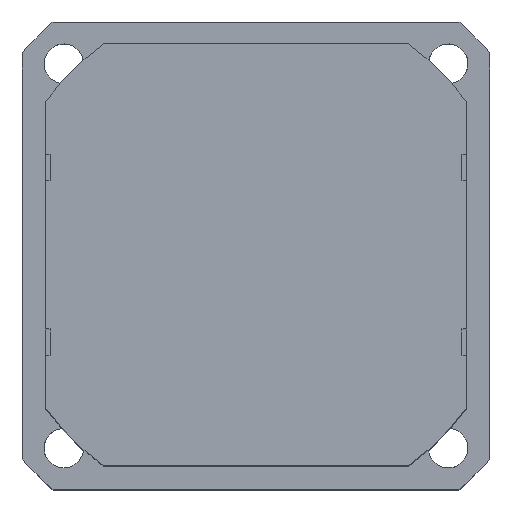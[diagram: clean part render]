
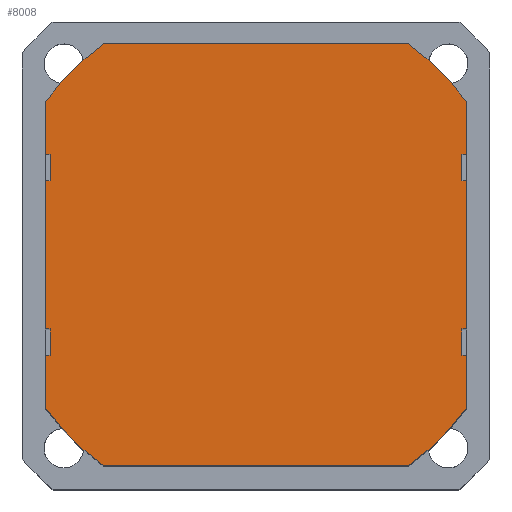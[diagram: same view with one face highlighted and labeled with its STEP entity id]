
A CAD part, top view. The second image highlights one B-rep face of the part: STEP entity #8008.
In plain terms, the highlighted planar face has unit normal (0, 0, 1).
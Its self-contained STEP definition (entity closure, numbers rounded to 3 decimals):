
#2103=LINE('',#11396,#9480);
#2104=LINE('',#11401,#9481);
#2105=LINE('',#11405,#9482);
#2106=LINE('',#11407,#9483);
#2107=LINE('',#11409,#9484);
#2108=LINE('',#11411,#9485);
#2109=LINE('',#11413,#9486);
#2110=LINE('',#11415,#9487);
#2111=LINE('',#11417,#9488);
#2112=LINE('',#11419,#9489);
#2113=LINE('',#11421,#9490);
#2114=LINE('',#11425,#9491);
#2115=LINE('',#11429,#9492);
#2116=LINE('',#11431,#9493);
#2117=LINE('',#11433,#9494);
#2118=LINE('',#11435,#9495);
#2119=LINE('',#11437,#9496);
#2120=LINE('',#11439,#9497);
#2121=LINE('',#11441,#9498);
#2122=LINE('',#11443,#9499);
#2772=CIRCLE('',#8630,79.);
#2773=CIRCLE('',#8631,79.);
#2774=CIRCLE('',#8632,79.);
#2775=CIRCLE('',#8633,79.);
#3178=VERTEX_POINT('',#11397);
#3179=VERTEX_POINT('',#11398);
#3180=VERTEX_POINT('',#11400);
#3181=VERTEX_POINT('',#11402);
#3182=VERTEX_POINT('',#11404);
#3183=VERTEX_POINT('',#11406);
#3184=VERTEX_POINT('',#11408);
#3185=VERTEX_POINT('',#11410);
#3186=VERTEX_POINT('',#11412);
#3187=VERTEX_POINT('',#11414);
#3188=VERTEX_POINT('',#11416);
#3189=VERTEX_POINT('',#11418);
#3190=VERTEX_POINT('',#11420);
#3191=VERTEX_POINT('',#11422);
#3192=VERTEX_POINT('',#11424);
#3193=VERTEX_POINT('',#11426);
#3194=VERTEX_POINT('',#11428);
#3195=VERTEX_POINT('',#11430);
#3196=VERTEX_POINT('',#11432);
#3197=VERTEX_POINT('',#11434);
#3198=VERTEX_POINT('',#11436);
#3199=VERTEX_POINT('',#11438);
#3200=VERTEX_POINT('',#11440);
#3201=VERTEX_POINT('',#11442);
#4018=EDGE_CURVE('',#3178,#3179,#2103,.T.);
#4019=EDGE_CURVE('',#3180,#3178,#2772,.T.);
#4020=EDGE_CURVE('',#3181,#3180,#2104,.T.);
#4021=EDGE_CURVE('',#3182,#3181,#2773,.T.);
#4022=EDGE_CURVE('',#3183,#3182,#2105,.T.);
#4023=EDGE_CURVE('',#3184,#3183,#2106,.T.);
#4024=EDGE_CURVE('',#3185,#3184,#2107,.T.);
#4025=EDGE_CURVE('',#3186,#3185,#2108,.T.);
#4026=EDGE_CURVE('',#3187,#3186,#2109,.T.);
#4027=EDGE_CURVE('',#3188,#3187,#2110,.T.);
#4028=EDGE_CURVE('',#3189,#3188,#2111,.T.);
#4029=EDGE_CURVE('',#3190,#3189,#2112,.T.);
#4030=EDGE_CURVE('',#3191,#3190,#2113,.T.);
#4031=EDGE_CURVE('',#3192,#3191,#2774,.T.);
#4032=EDGE_CURVE('',#3193,#3192,#2114,.T.);
#4033=EDGE_CURVE('',#3194,#3193,#2775,.T.);
#4034=EDGE_CURVE('',#3195,#3194,#2115,.T.);
#4035=EDGE_CURVE('',#3196,#3195,#2116,.T.);
#4036=EDGE_CURVE('',#3197,#3196,#2117,.T.);
#4037=EDGE_CURVE('',#3198,#3197,#2118,.T.);
#4038=EDGE_CURVE('',#3199,#3198,#2119,.T.);
#4039=EDGE_CURVE('',#3200,#3199,#2120,.T.);
#4040=EDGE_CURVE('',#3201,#3200,#2121,.T.);
#4041=EDGE_CURVE('',#3179,#3201,#2122,.T.);
#5250=ORIENTED_EDGE('',*,*,#4018,.F.);
#5251=ORIENTED_EDGE('',*,*,#4019,.F.);
#5252=ORIENTED_EDGE('',*,*,#4020,.F.);
#5253=ORIENTED_EDGE('',*,*,#4021,.F.);
#5254=ORIENTED_EDGE('',*,*,#4022,.F.);
#5255=ORIENTED_EDGE('',*,*,#4023,.F.);
#5256=ORIENTED_EDGE('',*,*,#4024,.F.);
#5257=ORIENTED_EDGE('',*,*,#4025,.F.);
#5258=ORIENTED_EDGE('',*,*,#4026,.F.);
#5259=ORIENTED_EDGE('',*,*,#4027,.F.);
#5260=ORIENTED_EDGE('',*,*,#4028,.F.);
#5261=ORIENTED_EDGE('',*,*,#4029,.F.);
#5262=ORIENTED_EDGE('',*,*,#4030,.F.);
#5263=ORIENTED_EDGE('',*,*,#4031,.F.);
#5264=ORIENTED_EDGE('',*,*,#4032,.F.);
#5265=ORIENTED_EDGE('',*,*,#4033,.F.);
#5266=ORIENTED_EDGE('',*,*,#4034,.F.);
#5267=ORIENTED_EDGE('',*,*,#4035,.F.);
#5268=ORIENTED_EDGE('',*,*,#4036,.F.);
#5269=ORIENTED_EDGE('',*,*,#4037,.F.);
#5270=ORIENTED_EDGE('',*,*,#4038,.F.);
#5271=ORIENTED_EDGE('',*,*,#4039,.F.);
#5272=ORIENTED_EDGE('',*,*,#4040,.F.);
#5273=ORIENTED_EDGE('',*,*,#4041,.F.);
#6972=EDGE_LOOP('',(#5250,#5251,#5252,#5253,#5254,#5255,#5256,#5257,#5258,
#5259,#5260,#5261,#5262,#5263,#5264,#5265,#5266,#5267,#5268,#5269,#5270,
#5271,#5272,#5273));
#7504=FACE_BOUND('',#6972,.T.);
#8008=ADVANCED_FACE('',(#7504),#9997,.T.);
#8629=AXIS2_PLACEMENT_3D('',#11395,#15266,$);
#8630=AXIS2_PLACEMENT_3D('',#11399,#15268,#15269);
#8631=AXIS2_PLACEMENT_3D('',#11403,#15271,#15272);
#8632=AXIS2_PLACEMENT_3D('',#11423,#15282,#15283);
#8633=AXIS2_PLACEMENT_3D('',#11427,#15285,#15286);
#9480=VECTOR('',#15267,1.);
#9481=VECTOR('',#15270,1.);
#9482=VECTOR('',#15273,1.);
#9483=VECTOR('',#15274,1.);
#9484=VECTOR('',#15275,1.);
#9485=VECTOR('',#15276,1.);
#9486=VECTOR('',#15277,1.);
#9487=VECTOR('',#15278,1.);
#9488=VECTOR('',#15279,1.);
#9489=VECTOR('',#15280,1.);
#9490=VECTOR('',#15281,1.);
#9491=VECTOR('',#15284,1.);
#9492=VECTOR('',#15287,1.);
#9493=VECTOR('',#15288,1.);
#9494=VECTOR('',#15289,1.);
#9495=VECTOR('',#15290,1.);
#9496=VECTOR('',#15291,1.);
#9497=VECTOR('',#15292,1.);
#9498=VECTOR('',#15293,1.);
#9499=VECTOR('',#15294,1.);
#9997=PLANE('',#8629);
#11395=CARTESIAN_POINT('',(0.,0.,
100.5));
#11396=CARTESIAN_POINT('',(64.,30.5,100.5));
#11397=CARTESIAN_POINT('',(64.,46.314,100.5));
#11398=CARTESIAN_POINT('',(64.,30.5,100.5));
#11399=CARTESIAN_POINT('',(0.,0.,100.5));
#11400=CARTESIAN_POINT('',(46.314,64.,100.5));
#11401=CARTESIAN_POINT('',(46.314,64.,100.5));
#11402=CARTESIAN_POINT('',(-46.314,64.,100.5));
#11403=CARTESIAN_POINT('',(0.,0.,100.5));
#11404=CARTESIAN_POINT('',(-64.,46.314,100.5));
#11405=CARTESIAN_POINT('',(-64.,46.314,100.5));
#11406=CARTESIAN_POINT('',(-64.,30.5,100.5));
#11407=CARTESIAN_POINT('',(-64.,30.5,100.5));
#11408=CARTESIAN_POINT('',(-62.5,30.5,100.5));
#11409=CARTESIAN_POINT('',(-62.5,30.5,100.5));
#11410=CARTESIAN_POINT('',(-62.5,22.5,100.5));
#11411=CARTESIAN_POINT('',(-62.5,22.5,100.5));
#11412=CARTESIAN_POINT('',(-64.,22.5,100.5));
#11413=CARTESIAN_POINT('',(-64.,22.5,100.5));
#11414=CARTESIAN_POINT('',(-64.,-22.5,100.5));
#11415=CARTESIAN_POINT('',(-64.,-22.5,100.5));
#11416=CARTESIAN_POINT('',(-62.5,-22.5,100.5));
#11417=CARTESIAN_POINT('',(-62.5,-22.5,100.5));
#11418=CARTESIAN_POINT('',(-62.5,-30.5,100.5));
#11419=CARTESIAN_POINT('',(-62.5,-30.5,100.5));
#11420=CARTESIAN_POINT('',(-64.,-30.5,100.5));
#11421=CARTESIAN_POINT('',(-64.,-30.5,100.5));
#11422=CARTESIAN_POINT('',(-64.,-46.314,100.5));
#11423=CARTESIAN_POINT('',(0.,0.,100.5));
#11424=CARTESIAN_POINT('',(-46.314,-64.,100.5));
#11425=CARTESIAN_POINT('',(-46.314,-64.,100.5));
#11426=CARTESIAN_POINT('',(46.314,-64.,100.5));
#11427=CARTESIAN_POINT('',(0.,0.,100.5));
#11428=CARTESIAN_POINT('',(64.,-46.314,100.5));
#11429=CARTESIAN_POINT('',(64.,-46.314,100.5));
#11430=CARTESIAN_POINT('',(64.,-30.5,100.5));
#11431=CARTESIAN_POINT('',(64.,-30.5,100.5));
#11432=CARTESIAN_POINT('',(62.5,-30.5,100.5));
#11433=CARTESIAN_POINT('',(62.5,-30.5,100.5));
#11434=CARTESIAN_POINT('',(62.5,-22.5,100.5));
#11435=CARTESIAN_POINT('',(62.5,-22.5,100.5));
#11436=CARTESIAN_POINT('',(64.,-22.5,100.5));
#11437=CARTESIAN_POINT('',(64.,-22.5,100.5));
#11438=CARTESIAN_POINT('',(64.,22.5,100.5));
#11439=CARTESIAN_POINT('',(64.,22.5,100.5));
#11440=CARTESIAN_POINT('',(62.5,22.5,100.5));
#11441=CARTESIAN_POINT('',(62.5,22.5,100.5));
#11442=CARTESIAN_POINT('',(62.5,30.5,100.5));
#11443=CARTESIAN_POINT('',(62.5,30.5,100.5));
#15266=DIRECTION('',(0.,0.,1.));
#15267=DIRECTION('',(0.,-1.,0.));
#15268=DIRECTION('',(0.,0.,-1.));
#15269=DIRECTION('',(79.,0.,0.));
#15270=DIRECTION('',(1.,0.,0.));
#15271=DIRECTION('',(0.,0.,-1.));
#15272=DIRECTION('',(79.,0.,0.));
#15273=DIRECTION('',(0.,1.,0.));
#15274=DIRECTION('',(-1.,0.,0.));
#15275=DIRECTION('',(0.,1.,0.));
#15276=DIRECTION('',(1.,0.,0.));
#15277=DIRECTION('',(0.,1.,0.));
#15278=DIRECTION('',(-1.,0.,0.));
#15279=DIRECTION('',(0.,1.,0.));
#15280=DIRECTION('',(1.,0.,0.));
#15281=DIRECTION('',(0.,1.,0.));
#15282=DIRECTION('',(0.,0.,-1.));
#15283=DIRECTION('',(79.,0.,0.));
#15284=DIRECTION('',(-1.,0.,0.));
#15285=DIRECTION('',(0.,0.,-1.));
#15286=DIRECTION('',(79.,0.,0.));
#15287=DIRECTION('',(0.,-1.,0.));
#15288=DIRECTION('',(1.,0.,0.));
#15289=DIRECTION('',(0.,-1.,0.));
#15290=DIRECTION('',(-1.,0.,0.));
#15291=DIRECTION('',(0.,-1.,0.));
#15292=DIRECTION('',(1.,0.,0.));
#15293=DIRECTION('',(0.,-1.,0.));
#15294=DIRECTION('',(-1.,0.,0.));
